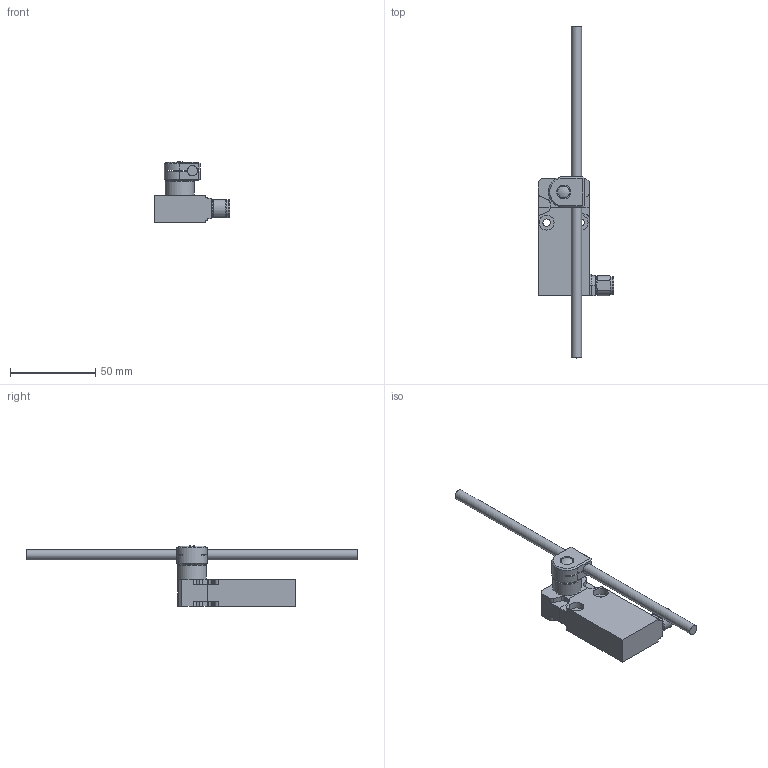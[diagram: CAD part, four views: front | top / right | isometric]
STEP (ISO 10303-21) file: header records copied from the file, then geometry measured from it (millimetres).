
FILE_DESCRIPTION(/* description */ (''),/* implementation_level */ '2;1');
FILE_NAME(/* name */ 'C:\Users\servizio.tecnico\Desktop\CADENAS\3D\EP1_STP\STP_EP1_G74M.stp',/* time_stamp */ '2017-09-04T11:55:14+02:00',/* author */ ('servizio.tecnico'),/* organization */ (''),/* preprocessor_version */ 'ST-DEVELOPER v16.1',/* originating_system */ 'Autodesk Inventor 2016',/* authorisation */ '');
FILE_SCHEMA (('AUTOMOTIVE_DESIGN { 1 0 10303 214 3 1 1 }'));
Length unit declared in the file: millimetre
Products named in the file (3): Product; EP1G74-M; BASE ASSI 
Assembly tree (2 placements, depth 3):
  BASE ASSI 
    EP1G74-M
      Product
Bounding box: 44.5 x 195 x 35.58 mm (x, y, z)
Volume: 42407.1 mm3; surface area: 15913.1 mm2
Topology: 4 solids, 4 shells, 142 faces, 352 edges, 228 vertices
Faces by surface type: plane 90, cylinder 43, cone 6, torus 2, sphere 1
Full cylindrical faces by diameter (mm): 4.4 x2, 6 x1, 7 x1, 8.2 x1, 8.7 x4, 10.3 x1, 10.6 x2, 11 x1, 17 x1
Entity records: 4247 total; most frequent: CARTESIAN_POINT 724, DIRECTION 718, ORIENTED_EDGE 670, EDGE_CURVE 335, AXIS2_PLACEMENT_3D 244, LINE 230, VECTOR 230, VERTEX_POINT 226
